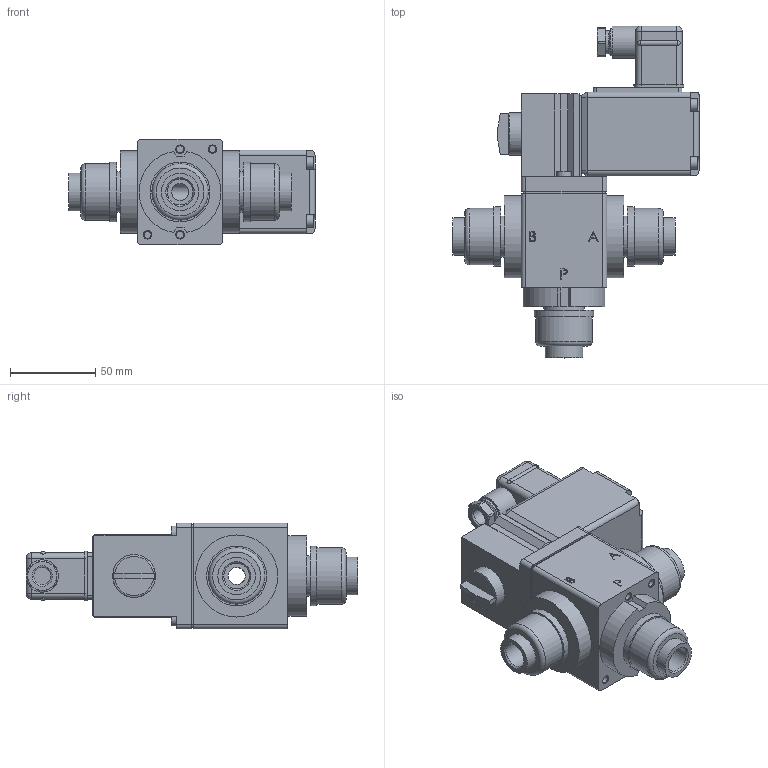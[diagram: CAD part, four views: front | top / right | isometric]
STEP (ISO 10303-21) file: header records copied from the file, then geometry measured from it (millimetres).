
FILE_DESCRIPTION(/* description */ ('STEP AP203'),/* implementation_level */ '2;1');
FILE_NAME(/* name */ '0131-379135-Direct-acting_2_2_or_3_2_way_toggle_valves',/* time_stamp */ '2023-12-26T12:24:37+01:00',/* author */ ('License CC BY-ND 4.0'),/* organization */ ('CADENAS'),/* preprocessor_version */ 'ST-DEVELOPER v19.3',/* originating_system */ 'PARTsolutions',/* authorisation */ ' ');
FILE_SCHEMA (('CONFIG_CONTROL_DESIGN'));
Length unit declared in the file: millimetre
Products named in the file (1): 0131-379135-Direct-acting 2/2 or 3/2 way toggle valves
Bounding box: 144 x 194.2 x 62 mm (x, y, z)
Volume: 581296.4 mm3; surface area: 73219.1 mm2
Topology: 1 solids, 2 shells, 287 faces, 678 edges, 436 vertices
Faces by surface type: plane 160, cylinder 94, cone 20, sphere 9, torus 4
Full cylindrical faces by diameter (mm): 2.459 x1, 4.134 x4, 7 x5, 8.5 x2, 10 x3, 13.7 x1, 14.95 x3, 16 x1, 19 x1, 22 x3, 23.9 x3, 25 x1, 33 x3, 35 x3, 48 x2
Entity records: 7973 total; most frequent: CARTESIAN_POINT 1435, DIRECTION 1386, ORIENTED_EDGE 1230, EDGE_CURVE 615, AXIS2_PLACEMENT_3D 509, VERTEX_POINT 429, EDGE_LOOP 388, FACE_BOUND 388
